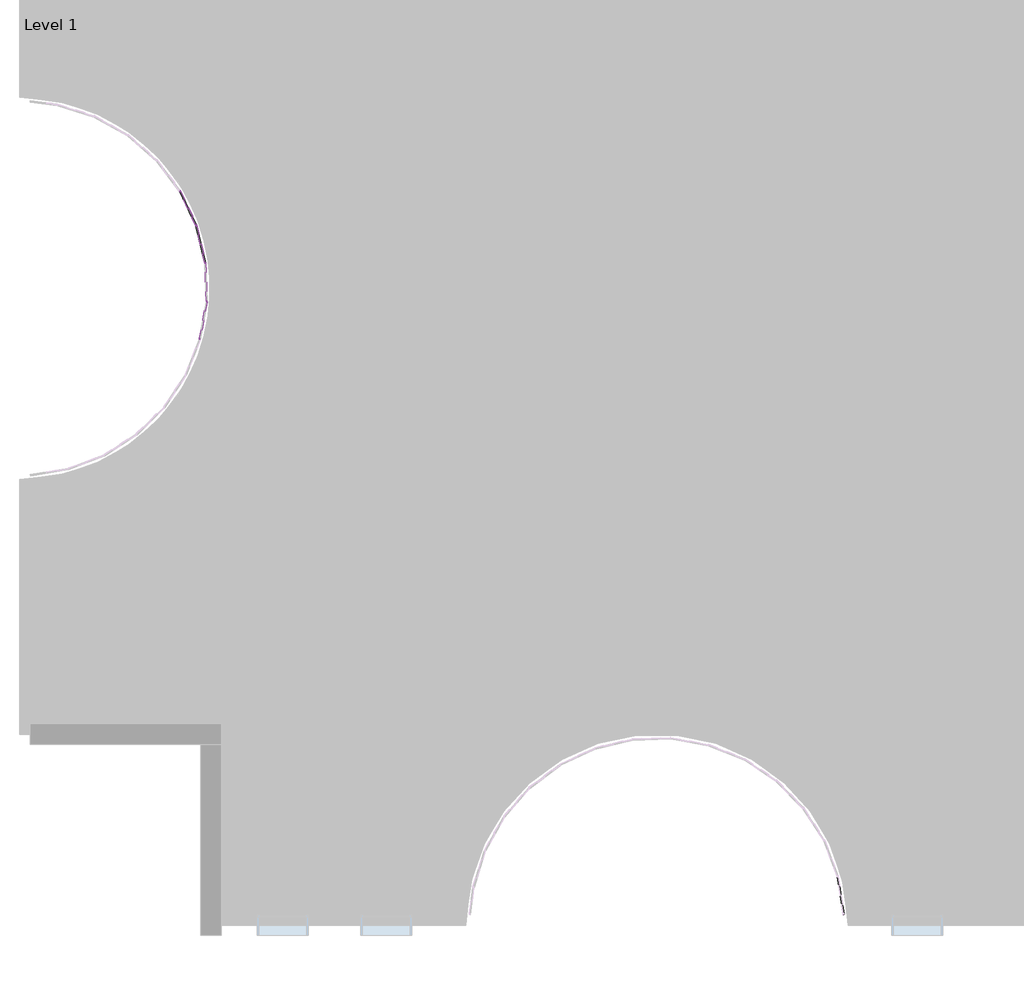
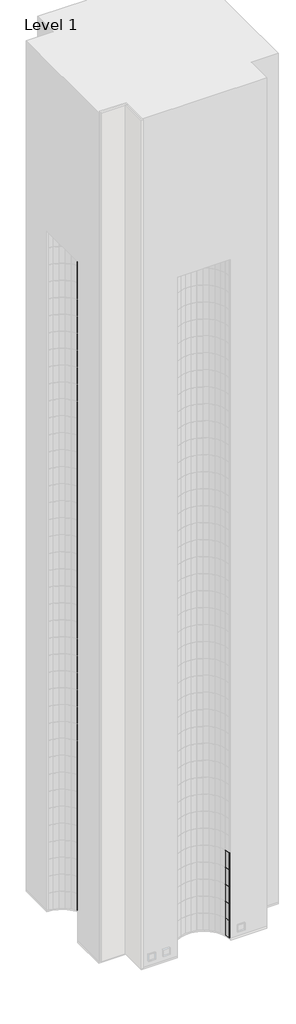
# One storey, part 6 of 20: 122 plates.
"""IFC4 building model written with IfcOpenShell, lengths in millimetres."""

from ifc_helpers import new_model, si_unit, origin, place, context, project, spatial, transform, mapped, element, save
from components import system_panel_glazed_d77d1ebf

model = new_model("IFC4")

# Units and contexts
model_context = context("Model", 3, world=origin())
ifc_project = project(units=[si_unit("LENGTHUNIT", "METRE", prefix="MILLI")], contexts=[model_context])

# Site, building, storey
site = spatial("IfcSite", under=ifc_project)
building = spatial("IfcBuilding", under=site)
storey = spatial("IfcBuildingStorey", under=building, Name="Level 1", Elevation=0.0)

# Plates
placement = place(None, origin())
system_panel_glazed_shape = system_panel_glazed_d77d1ebf(model_context)
element("IfcPlate", 1, ObjectType="System Panel : Glazed", at=placement, inside=storey, context=model_context, shape_type="MappedRepresentation", body=[
    mapped(system_panel_glazed_shape, transform((7886.1724907, -20726.1064319, 0.0), x_axis=(-0.1587098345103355, 0.9873252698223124, 0.0), y_axis=(-0.9873252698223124, -0.1587098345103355, 0.0), z_axis=(0.0, 0.0, 1.0))),
])
element("IfcPlate", 2, ObjectType="System Panel : Glazed", at=placement, inside=storey, context=model_context, shape_type="MappedRepresentation", body=[
    mapped(system_panel_glazed_shape, transform((7886.1724907, -20726.1064319, 3048.0), x_axis=(-0.1587098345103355, 0.9873252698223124, 0.0), y_axis=(-0.9873252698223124, -0.1587098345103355, 0.0), z_axis=(0.0, 0.0, 1.0))),
])
element("IfcPlate", 3, ObjectType="System Panel : Glazed", at=placement, inside=storey, context=model_context, shape_type="MappedRepresentation", body=[
    mapped(system_panel_glazed_shape, transform((7886.1724907, -20726.1064319, 6096.0), x_axis=(-0.1587098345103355, 0.9873252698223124, 0.0), y_axis=(-0.9873252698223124, -0.1587098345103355, 0.0), z_axis=(0.0, 0.0, 1.0))),
])
element("IfcPlate", 4, ObjectType="System Panel : Glazed", at=placement, inside=storey, context=model_context, shape_type="MappedRepresentation", body=[
    mapped(system_panel_glazed_shape, transform((7886.1724907, -20726.1064319, 9144.0), x_axis=(-0.1587098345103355, 0.9873252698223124, 0.0), y_axis=(-0.9873252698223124, -0.1587098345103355, 0.0), z_axis=(0.0, 0.0, 1.0))),
])
element("IfcPlate", 5, ObjectType="System Panel : Glazed", at=placement, inside=storey, context=model_context, shape_type="MappedRepresentation", body=[
    mapped(system_panel_glazed_shape, transform((7886.1724907, -20726.1064319, 12192.0), x_axis=(-0.1587098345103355, 0.9873252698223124, 0.0), y_axis=(-0.9873252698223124, -0.1587098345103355, 0.0), z_axis=(0.0, 0.0, 1.0))),
])
element("IfcPlate", 6, ObjectType="System Panel : Glazed", at=placement, inside=storey, context=model_context, shape_type="MappedRepresentation", body=[
    mapped(system_panel_glazed_shape, transform((-7420.4303916, -5153.6359648, 0.0), x_axis=(-0.23385091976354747, 0.9722724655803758, 0.0), y_axis=(-0.9722724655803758, -0.23385091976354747, 0.0), z_axis=(0.0, 0.0, 1.0))),
])
element("IfcPlate", 7, ObjectType="System Panel : Glazed", at=placement, inside=storey, context=model_context, shape_type="MappedRepresentation", body=[
    mapped(system_panel_glazed_shape, transform((-7722.9001162, -4295.8445199, 0.0), x_axis=(-0.42771890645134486, 0.9039117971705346, 0.0), y_axis=(-0.9039117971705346, -0.42771890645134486, 0.0), z_axis=(0.0, 0.0, 1.0))),
])
element("IfcPlate", 8, ObjectType="System Panel : Glazed", at=placement, inside=storey, context=model_context, shape_type="MappedRepresentation", body=[
    mapped(system_panel_glazed_shape, transform((-7420.4303916, -5153.6359648, 3048.0), x_axis=(-0.23385091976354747, 0.9722724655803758, 0.0), y_axis=(-0.9722724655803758, -0.23385091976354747, 0.0), z_axis=(0.0, 0.0, 1.0))),
])
element("IfcPlate", 9, ObjectType="System Panel : Glazed", at=placement, inside=storey, context=model_context, shape_type="MappedRepresentation", body=[
    mapped(system_panel_glazed_shape, transform((-7722.9001162, -4295.8445199, 3048.0), x_axis=(-0.42771890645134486, 0.9039117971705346, 0.0), y_axis=(-0.9039117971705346, -0.42771890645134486, 0.0), z_axis=(0.0, 0.0, 1.0))),
])
element("IfcPlate", 10, ObjectType="System Panel : Glazed", at=placement, inside=storey, context=model_context, shape_type="MappedRepresentation", body=[
    mapped(system_panel_glazed_shape, transform((-7420.4303916, -5153.6359648, 6096.0), x_axis=(-0.23385091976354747, 0.9722724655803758, 0.0), y_axis=(-0.9722724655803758, -0.23385091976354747, 0.0), z_axis=(0.0, 0.0, 1.0))),
])
element("IfcPlate", 11, ObjectType="System Panel : Glazed", at=placement, inside=storey, context=model_context, shape_type="MappedRepresentation", body=[
    mapped(system_panel_glazed_shape, transform((-7722.9001162, -4295.8445199, 6096.0), x_axis=(-0.42771890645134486, 0.9039117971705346, 0.0), y_axis=(-0.9039117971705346, -0.42771890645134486, 0.0), z_axis=(0.0, 0.0, 1.0))),
])
element("IfcPlate", 12, ObjectType="System Panel : Glazed", at=placement, inside=storey, context=model_context, shape_type="MappedRepresentation", body=[
    mapped(system_panel_glazed_shape, transform((-7420.4303916, -5153.6359648, 9144.0), x_axis=(-0.23385091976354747, 0.9722724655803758, 0.0), y_axis=(-0.9722724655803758, -0.23385091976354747, 0.0), z_axis=(0.0, 0.0, 1.0))),
])
element("IfcPlate", 13, ObjectType="System Panel : Glazed", at=placement, inside=storey, context=model_context, shape_type="MappedRepresentation", body=[
    mapped(system_panel_glazed_shape, transform((-7722.9001162, -4295.8445199, 9144.0), x_axis=(-0.42771890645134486, 0.9039117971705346, 0.0), y_axis=(-0.9039117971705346, -0.42771890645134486, 0.0), z_axis=(0.0, 0.0, 1.0))),
])
element("IfcPlate", 14, ObjectType="System Panel : Glazed", at=placement, inside=storey, context=model_context, shape_type="MappedRepresentation", body=[
    mapped(system_panel_glazed_shape, transform((-7420.4303916, -5153.6359648, 12192.0), x_axis=(-0.23385091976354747, 0.9722724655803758, 0.0), y_axis=(-0.9722724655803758, -0.23385091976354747, 0.0), z_axis=(0.0, 0.0, 1.0))),
])
element("IfcPlate", 15, ObjectType="System Panel : Glazed", at=placement, inside=storey, context=model_context, shape_type="MappedRepresentation", body=[
    mapped(system_panel_glazed_shape, transform((-7722.9001162, -4295.8445199, 12192.0), x_axis=(-0.42771890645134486, 0.9039117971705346, 0.0), y_axis=(-0.9039117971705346, -0.42771890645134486, 0.0), z_axis=(0.0, 0.0, 1.0))),
])
element("IfcPlate", 16, ObjectType="System Panel : Glazed", at=placement, inside=storey, context=model_context, shape_type="MappedRepresentation", body=[
    mapped(system_panel_glazed_shape, transform((-7420.4303916, -5153.6359648, 15240.0), x_axis=(-0.23385091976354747, 0.9722724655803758, 0.0), y_axis=(-0.9722724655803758, -0.23385091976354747, 0.0), z_axis=(0.0, 0.0, 1.0))),
])
element("IfcPlate", 17, ObjectType="System Panel : Glazed", at=placement, inside=storey, context=model_context, shape_type="MappedRepresentation", body=[
    mapped(system_panel_glazed_shape, transform((-7722.9001162, -4295.8445199, 15240.0), x_axis=(-0.42771890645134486, 0.9039117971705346, 0.0), y_axis=(-0.9039117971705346, -0.42771890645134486, 0.0), z_axis=(0.0, 0.0, 1.0))),
])
element("IfcPlate", 18, ObjectType="System Panel : Glazed", at=placement, inside=storey, context=model_context, shape_type="MappedRepresentation", body=[
    mapped(system_panel_glazed_shape, transform((-7420.4303916, -5153.6359648, 18288.0), x_axis=(-0.23385091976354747, 0.9722724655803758, 0.0), y_axis=(-0.9722724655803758, -0.23385091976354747, 0.0), z_axis=(0.0, 0.0, 1.0))),
])
element("IfcPlate", 19, ObjectType="System Panel : Glazed", at=placement, inside=storey, context=model_context, shape_type="MappedRepresentation", body=[
    mapped(system_panel_glazed_shape, transform((-7722.9001162, -4295.8445199, 18288.0), x_axis=(-0.42771890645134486, 0.9039117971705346, 0.0), y_axis=(-0.9039117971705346, -0.42771890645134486, 0.0), z_axis=(0.0, 0.0, 1.0))),
])
element("IfcPlate", 20, ObjectType="System Panel : Glazed", at=placement, inside=storey, context=model_context, shape_type="MappedRepresentation", body=[
    mapped(system_panel_glazed_shape, transform((-7420.4303916, -5153.6359648, 21336.0), x_axis=(-0.23385091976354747, 0.9722724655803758, 0.0), y_axis=(-0.9722724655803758, -0.23385091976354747, 0.0), z_axis=(0.0, 0.0, 1.0))),
])
element("IfcPlate", 21, ObjectType="System Panel : Glazed", at=placement, inside=storey, context=model_context, shape_type="MappedRepresentation", body=[
    mapped(system_panel_glazed_shape, transform((-7722.9001162, -4295.8445199, 21336.0), x_axis=(-0.42771890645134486, 0.9039117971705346, 0.0), y_axis=(-0.9039117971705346, -0.42771890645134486, 0.0), z_axis=(0.0, 0.0, 1.0))),
])
element("IfcPlate", 22, ObjectType="System Panel : Glazed", at=placement, inside=storey, context=model_context, shape_type="MappedRepresentation", body=[
    mapped(system_panel_glazed_shape, transform((-7420.4303916, -5153.6359648, 24384.0), x_axis=(-0.23385091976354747, 0.9722724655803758, 0.0), y_axis=(-0.9722724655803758, -0.23385091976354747, 0.0), z_axis=(0.0, 0.0, 1.0))),
])
element("IfcPlate", 23, ObjectType="System Panel : Glazed", at=placement, inside=storey, context=model_context, shape_type="MappedRepresentation", body=[
    mapped(system_panel_glazed_shape, transform((-7722.9001162, -4295.8445199, 24384.0), x_axis=(-0.42771890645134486, 0.9039117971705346, 0.0), y_axis=(-0.9039117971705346, -0.42771890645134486, 0.0), z_axis=(0.0, 0.0, 1.0))),
])
element("IfcPlate", 24, ObjectType="System Panel : Glazed", at=placement, inside=storey, context=model_context, shape_type="MappedRepresentation", body=[
    mapped(system_panel_glazed_shape, transform((-7420.4303916, -5153.6359648, 27432.0), x_axis=(-0.23385091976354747, 0.9722724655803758, 0.0), y_axis=(-0.9722724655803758, -0.23385091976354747, 0.0), z_axis=(0.0, 0.0, 1.0))),
])
element("IfcPlate", 25, ObjectType="System Panel : Glazed", at=placement, inside=storey, context=model_context, shape_type="MappedRepresentation", body=[
    mapped(system_panel_glazed_shape, transform((-7722.9001162, -4295.8445199, 27432.0), x_axis=(-0.42771890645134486, 0.9039117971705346, 0.0), y_axis=(-0.9039117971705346, -0.42771890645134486, 0.0), z_axis=(0.0, 0.0, 1.0))),
])
element("IfcPlate", 26, ObjectType="System Panel : Glazed", at=placement, inside=storey, context=model_context, shape_type="MappedRepresentation", body=[
    mapped(system_panel_glazed_shape, transform((-7420.4303916, -5153.6359648, 30480.0), x_axis=(-0.23385091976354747, 0.9722724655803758, 0.0), y_axis=(-0.9722724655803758, -0.23385091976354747, 0.0), z_axis=(0.0, 0.0, 1.0))),
])
element("IfcPlate", 27, ObjectType="System Panel : Glazed", at=placement, inside=storey, context=model_context, shape_type="MappedRepresentation", body=[
    mapped(system_panel_glazed_shape, transform((-7722.9001162, -4295.8445199, 30480.0), x_axis=(-0.42771890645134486, 0.9039117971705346, 0.0), y_axis=(-0.9039117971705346, -0.42771890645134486, 0.0), z_axis=(0.0, 0.0, 1.0))),
])
element("IfcPlate", 28, ObjectType="System Panel : Glazed", at=placement, inside=storey, context=model_context, shape_type="MappedRepresentation", body=[
    mapped(system_panel_glazed_shape, transform((-7420.4303916, -5153.6359648, 33528.0), x_axis=(-0.23385091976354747, 0.9722724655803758, 0.0), y_axis=(-0.9722724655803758, -0.23385091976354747, 0.0), z_axis=(0.0, 0.0, 1.0))),
])
element("IfcPlate", 29, ObjectType="System Panel : Glazed", at=placement, inside=storey, context=model_context, shape_type="MappedRepresentation", body=[
    mapped(system_panel_glazed_shape, transform((-7722.9001162, -4295.8445199, 33528.0), x_axis=(-0.42771890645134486, 0.9039117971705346, 0.0), y_axis=(-0.9039117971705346, -0.42771890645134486, 0.0), z_axis=(0.0, 0.0, 1.0))),
])
element("IfcPlate", 30, ObjectType="System Panel : Glazed", at=placement, inside=storey, context=model_context, shape_type="MappedRepresentation", body=[
    mapped(system_panel_glazed_shape, transform((-7420.4303916, -5153.6359648, 36576.0), x_axis=(-0.23385091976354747, 0.9722724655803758, 0.0), y_axis=(-0.9722724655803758, -0.23385091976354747, 0.0), z_axis=(0.0, 0.0, 1.0))),
])
element("IfcPlate", 31, ObjectType="System Panel : Glazed", at=placement, inside=storey, context=model_context, shape_type="MappedRepresentation", body=[
    mapped(system_panel_glazed_shape, transform((-7722.9001162, -4295.8445199, 36576.0), x_axis=(-0.42771890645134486, 0.9039117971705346, 0.0), y_axis=(-0.9039117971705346, -0.42771890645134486, 0.0), z_axis=(0.0, 0.0, 1.0))),
])
element("IfcPlate", 32, ObjectType="System Panel : Glazed", at=placement, inside=storey, context=model_context, shape_type="MappedRepresentation", body=[
    mapped(system_panel_glazed_shape, transform((-7420.4303916, -5153.6359648, 39624.0), x_axis=(-0.23385091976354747, 0.9722724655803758, 0.0), y_axis=(-0.9722724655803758, -0.23385091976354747, 0.0), z_axis=(0.0, 0.0, 1.0))),
])
element("IfcPlate", 33, ObjectType="System Panel : Glazed", at=placement, inside=storey, context=model_context, shape_type="MappedRepresentation", body=[
    mapped(system_panel_glazed_shape, transform((-7722.9001162, -4295.8445199, 39624.0), x_axis=(-0.42771890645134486, 0.9039117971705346, 0.0), y_axis=(-0.9039117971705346, -0.42771890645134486, 0.0), z_axis=(0.0, 0.0, 1.0))),
])
element("IfcPlate", 34, ObjectType="System Panel : Glazed", at=placement, inside=storey, context=model_context, shape_type="MappedRepresentation", body=[
    mapped(system_panel_glazed_shape, transform((-7420.4303916, -5153.6359648, 42672.0), x_axis=(-0.23385091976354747, 0.9722724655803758, 0.0), y_axis=(-0.9722724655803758, -0.23385091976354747, 0.0), z_axis=(0.0, 0.0, 1.0))),
])
element("IfcPlate", 35, ObjectType="System Panel : Glazed", at=placement, inside=storey, context=model_context, shape_type="MappedRepresentation", body=[
    mapped(system_panel_glazed_shape, transform((-7722.9001162, -4295.8445199, 42672.0), x_axis=(-0.42771890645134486, 0.9039117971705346, 0.0), y_axis=(-0.9039117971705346, -0.42771890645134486, 0.0), z_axis=(0.0, 0.0, 1.0))),
])
element("IfcPlate", 36, ObjectType="System Panel : Glazed", at=placement, inside=storey, context=model_context, shape_type="MappedRepresentation", body=[
    mapped(system_panel_glazed_shape, transform((-7420.4303916, -5153.6359648, 45720.0), x_axis=(-0.23385091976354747, 0.9722724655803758, 0.0), y_axis=(-0.9722724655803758, -0.23385091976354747, 0.0), z_axis=(0.0, 0.0, 1.0))),
])
element("IfcPlate", 37, ObjectType="System Panel : Glazed", at=placement, inside=storey, context=model_context, shape_type="MappedRepresentation", body=[
    mapped(system_panel_glazed_shape, transform((-7722.9001162, -4295.8445199, 45720.0), x_axis=(-0.42771890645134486, 0.9039117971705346, 0.0), y_axis=(-0.9039117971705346, -0.42771890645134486, 0.0), z_axis=(0.0, 0.0, 1.0))),
])
element("IfcPlate", 38, ObjectType="System Panel : Glazed", at=placement, inside=storey, context=model_context, shape_type="MappedRepresentation", body=[
    mapped(system_panel_glazed_shape, transform((-7420.4303916, -5153.6359648, 48768.0), x_axis=(-0.23385091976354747, 0.9722724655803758, 0.0), y_axis=(-0.9722724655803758, -0.23385091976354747, 0.0), z_axis=(0.0, 0.0, 1.0))),
])
element("IfcPlate", 39, ObjectType="System Panel : Glazed", at=placement, inside=storey, context=model_context, shape_type="MappedRepresentation", body=[
    mapped(system_panel_glazed_shape, transform((-7722.9001162, -4295.8445199, 48768.0), x_axis=(-0.42771890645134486, 0.9039117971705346, 0.0), y_axis=(-0.9039117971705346, -0.42771890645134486, 0.0), z_axis=(0.0, 0.0, 1.0))),
])
element("IfcPlate", 40, ObjectType="System Panel : Glazed", at=placement, inside=storey, context=model_context, shape_type="MappedRepresentation", body=[
    mapped(system_panel_glazed_shape, transform((-7420.4303916, -5153.6359648, 51816.0), x_axis=(-0.23385091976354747, 0.9722724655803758, 0.0), y_axis=(-0.9722724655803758, -0.23385091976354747, 0.0), z_axis=(0.0, 0.0, 1.0))),
])
element("IfcPlate", 41, ObjectType="System Panel : Glazed", at=placement, inside=storey, context=model_context, shape_type="MappedRepresentation", body=[
    mapped(system_panel_glazed_shape, transform((-7722.9001162, -4295.8445199, 51816.0), x_axis=(-0.42771890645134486, 0.9039117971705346, 0.0), y_axis=(-0.9039117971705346, -0.42771890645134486, 0.0), z_axis=(0.0, 0.0, 1.0))),
])
element("IfcPlate", 42, ObjectType="System Panel : Glazed", at=placement, inside=storey, context=model_context, shape_type="MappedRepresentation", body=[
    mapped(system_panel_glazed_shape, transform((-7420.4303916, -5153.6359648, 54864.0), x_axis=(-0.23385091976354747, 0.9722724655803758, 0.0), y_axis=(-0.9722724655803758, -0.23385091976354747, 0.0), z_axis=(0.0, 0.0, 1.0))),
])
element("IfcPlate", 43, ObjectType="System Panel : Glazed", at=placement, inside=storey, context=model_context, shape_type="MappedRepresentation", body=[
    mapped(system_panel_glazed_shape, transform((-7722.9001162, -4295.8445199, 54864.0), x_axis=(-0.42771890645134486, 0.9039117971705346, 0.0), y_axis=(-0.9039117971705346, -0.42771890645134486, 0.0), z_axis=(0.0, 0.0, 1.0))),
])
element("IfcPlate", 44, ObjectType="System Panel : Glazed", at=placement, inside=storey, context=model_context, shape_type="MappedRepresentation", body=[
    mapped(system_panel_glazed_shape, transform((-7420.4303916, -5153.6359648, 57912.0), x_axis=(-0.23385091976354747, 0.9722724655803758, 0.0), y_axis=(-0.9722724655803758, -0.23385091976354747, 0.0), z_axis=(0.0, 0.0, 1.0))),
])
element("IfcPlate", 45, ObjectType="System Panel : Glazed", at=placement, inside=storey, context=model_context, shape_type="MappedRepresentation", body=[
    mapped(system_panel_glazed_shape, transform((-7722.9001162, -4295.8445199, 57912.0), x_axis=(-0.42771890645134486, 0.9039117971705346, 0.0), y_axis=(-0.9039117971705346, -0.42771890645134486, 0.0), z_axis=(0.0, 0.0, 1.0))),
])
element("IfcPlate", 46, ObjectType="System Panel : Glazed", at=placement, inside=storey, context=model_context, shape_type="MappedRepresentation", body=[
    mapped(system_panel_glazed_shape, transform((-7420.4303916, -5153.6359648, 60960.0), x_axis=(-0.23385091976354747, 0.9722724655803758, 0.0), y_axis=(-0.9722724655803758, -0.23385091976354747, 0.0), z_axis=(0.0, 0.0, 1.0))),
])
element("IfcPlate", 47, ObjectType="System Panel : Glazed", at=placement, inside=storey, context=model_context, shape_type="MappedRepresentation", body=[
    mapped(system_panel_glazed_shape, transform((-7722.9001162, -4295.8445199, 60960.0), x_axis=(-0.42771890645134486, 0.9039117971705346, 0.0), y_axis=(-0.9039117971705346, -0.42771890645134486, 0.0), z_axis=(0.0, 0.0, 1.0))),
])
element("IfcPlate", 48, ObjectType="System Panel : Glazed", at=placement, inside=storey, context=model_context, shape_type="MappedRepresentation", body=[
    mapped(system_panel_glazed_shape, transform((-7420.4303916, -5153.6359648, 64008.0), x_axis=(-0.23385091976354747, 0.9722724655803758, 0.0), y_axis=(-0.9722724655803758, -0.23385091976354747, 0.0), z_axis=(0.0, 0.0, 1.0))),
])
element("IfcPlate", 49, ObjectType="System Panel : Glazed", at=placement, inside=storey, context=model_context, shape_type="MappedRepresentation", body=[
    mapped(system_panel_glazed_shape, transform((-7722.9001162, -4295.8445199, 64008.0), x_axis=(-0.42771890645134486, 0.9039117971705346, 0.0), y_axis=(-0.9039117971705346, -0.42771890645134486, 0.0), z_axis=(0.0, 0.0, 1.0))),
])
element("IfcPlate", 50, ObjectType="System Panel : Glazed", at=placement, inside=storey, context=model_context, shape_type="MappedRepresentation", body=[
    mapped(system_panel_glazed_shape, transform((-7420.4303916, -5153.6359648, 67056.0), x_axis=(-0.23385091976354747, 0.9722724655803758, 0.0), y_axis=(-0.9722724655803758, -0.23385091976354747, 0.0), z_axis=(0.0, 0.0, 1.0))),
])
element("IfcPlate", 51, ObjectType="System Panel : Glazed", at=placement, inside=storey, context=model_context, shape_type="MappedRepresentation", body=[
    mapped(system_panel_glazed_shape, transform((-7722.9001162, -4295.8445199, 67056.0), x_axis=(-0.42771890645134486, 0.9039117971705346, 0.0), y_axis=(-0.9039117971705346, -0.42771890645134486, 0.0), z_axis=(0.0, 0.0, 1.0))),
])
element("IfcPlate", 52, ObjectType="System Panel : Glazed", at=placement, inside=storey, context=model_context, shape_type="MappedRepresentation", body=[
    mapped(system_panel_glazed_shape, transform((-7420.4303916, -5153.6359648, 70104.0), x_axis=(-0.23385091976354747, 0.9722724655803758, 0.0), y_axis=(-0.9722724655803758, -0.23385091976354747, 0.0), z_axis=(0.0, 0.0, 1.0))),
])
element("IfcPlate", 53, ObjectType="System Panel : Glazed", at=placement, inside=storey, context=model_context, shape_type="MappedRepresentation", body=[
    mapped(system_panel_glazed_shape, transform((-7722.9001162, -4295.8445199, 70104.0), x_axis=(-0.42771890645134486, 0.9039117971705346, 0.0), y_axis=(-0.9039117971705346, -0.42771890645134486, 0.0), z_axis=(0.0, 0.0, 1.0))),
])
element("IfcPlate", 54, ObjectType="System Panel : Glazed", at=placement, inside=storey, context=model_context, shape_type="MappedRepresentation", body=[
    mapped(system_panel_glazed_shape, transform((-7420.4303916, -5153.6359648, 73152.0), x_axis=(-0.23385091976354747, 0.9722724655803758, 0.0), y_axis=(-0.9722724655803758, -0.23385091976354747, 0.0), z_axis=(0.0, 0.0, 1.0))),
])
element("IfcPlate", 55, ObjectType="System Panel : Glazed", at=placement, inside=storey, context=model_context, shape_type="MappedRepresentation", body=[
    mapped(system_panel_glazed_shape, transform((-7722.9001162, -4295.8445199, 73152.0), x_axis=(-0.42771890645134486, 0.9039117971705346, 0.0), y_axis=(-0.9039117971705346, -0.42771890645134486, 0.0), z_axis=(0.0, 0.0, 1.0))),
])
element("IfcPlate", 56, ObjectType="System Panel : Glazed", at=placement, inside=storey, context=model_context, shape_type="MappedRepresentation", body=[
    mapped(system_panel_glazed_shape, transform((-7420.4303916, -5153.6359648, 76200.0), x_axis=(-0.23385091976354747, 0.9722724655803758, 0.0), y_axis=(-0.9722724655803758, -0.23385091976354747, 0.0), z_axis=(0.0, 0.0, 1.0))),
])
element("IfcPlate", 57, ObjectType="System Panel : Glazed", at=placement, inside=storey, context=model_context, shape_type="MappedRepresentation", body=[
    mapped(system_panel_glazed_shape, transform((-7722.9001162, -4295.8445199, 76200.0), x_axis=(-0.42771890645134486, 0.9039117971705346, 0.0), y_axis=(-0.9039117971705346, -0.42771890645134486, 0.0), z_axis=(0.0, 0.0, 1.0))),
])
element("IfcPlate", 58, ObjectType="System Panel : Glazed", at=placement, inside=storey, context=model_context, shape_type="MappedRepresentation", body=[
    mapped(system_panel_glazed_shape, transform((-7420.4303916, -5153.6359648, 79248.0), x_axis=(-0.23385091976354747, 0.9722724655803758, 0.0), y_axis=(-0.9722724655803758, -0.23385091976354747, 0.0), z_axis=(0.0, 0.0, 1.0))),
])
element("IfcPlate", 59, ObjectType="System Panel : Glazed", at=placement, inside=storey, context=model_context, shape_type="MappedRepresentation", body=[
    mapped(system_panel_glazed_shape, transform((-7722.9001162, -4295.8445199, 79248.0), x_axis=(-0.42771890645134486, 0.9039117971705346, 0.0), y_axis=(-0.9039117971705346, -0.42771890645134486, 0.0), z_axis=(0.0, 0.0, 1.0))),
])
element("IfcPlate", 60, ObjectType="System Panel : Glazed", at=placement, inside=storey, context=model_context, shape_type="MappedRepresentation", body=[
    mapped(system_panel_glazed_shape, transform((-7420.4303916, -5153.6359648, 82296.0), x_axis=(-0.23385091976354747, 0.9722724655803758, 0.0), y_axis=(-0.9722724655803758, -0.23385091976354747, 0.0), z_axis=(0.0, 0.0, 1.0))),
])
element("IfcPlate", 61, ObjectType="System Panel : Glazed", at=placement, inside=storey, context=model_context, shape_type="MappedRepresentation", body=[
    mapped(system_panel_glazed_shape, transform((-7722.9001162, -4295.8445199, 82296.0), x_axis=(-0.42771890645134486, 0.9039117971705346, 0.0), y_axis=(-0.9039117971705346, -0.42771890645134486, 0.0), z_axis=(0.0, 0.0, 1.0))),
])
element("IfcPlate", 62, ObjectType="System Panel : Glazed", at=placement, inside=storey, context=model_context, shape_type="MappedRepresentation", body=[
    mapped(system_panel_glazed_shape, transform((-7420.4303916, -5153.6359648, 85344.0), x_axis=(-0.23385091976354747, 0.9722724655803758, 0.0), y_axis=(-0.9722724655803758, -0.23385091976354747, 0.0), z_axis=(0.0, 0.0, 1.0))),
])
element("IfcPlate", 63, ObjectType="System Panel : Glazed", at=placement, inside=storey, context=model_context, shape_type="MappedRepresentation", body=[
    mapped(system_panel_glazed_shape, transform((-7722.9001162, -4295.8445199, 85344.0), x_axis=(-0.42771890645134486, 0.9039117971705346, 0.0), y_axis=(-0.9039117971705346, -0.42771890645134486, 0.0), z_axis=(0.0, 0.0, 1.0))),
])
element("IfcPlate", 64, ObjectType="System Panel : Glazed", at=placement, inside=storey, context=model_context, shape_type="MappedRepresentation", body=[
    mapped(system_panel_glazed_shape, transform((-7420.4303916, -5153.6359648, 88392.0), x_axis=(-0.23385091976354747, 0.9722724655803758, 0.0), y_axis=(-0.9722724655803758, -0.23385091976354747, 0.0), z_axis=(0.0, 0.0, 1.0))),
])
element("IfcPlate", 65, ObjectType="System Panel : Glazed", at=placement, inside=storey, context=model_context, shape_type="MappedRepresentation", body=[
    mapped(system_panel_glazed_shape, transform((-7722.9001162, -4295.8445199, 88392.0), x_axis=(-0.42771890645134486, 0.9039117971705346, 0.0), y_axis=(-0.9039117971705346, -0.42771890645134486, 0.0), z_axis=(0.0, 0.0, 1.0))),
])
element("IfcPlate", 66, ObjectType="System Panel : Glazed", at=placement, inside=storey, context=model_context, shape_type="MappedRepresentation", body=[
    mapped(system_panel_glazed_shape, transform((-7420.4303916, -5153.6359648, 91440.0), x_axis=(-0.23385091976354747, 0.9722724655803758, 0.0), y_axis=(-0.9722724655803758, -0.23385091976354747, 0.0), z_axis=(0.0, 0.0, 1.0))),
])
element("IfcPlate", 67, ObjectType="System Panel : Glazed", at=placement, inside=storey, context=model_context, shape_type="MappedRepresentation", body=[
    mapped(system_panel_glazed_shape, transform((-7722.9001162, -4295.8445199, 91440.0), x_axis=(-0.42771890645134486, 0.9039117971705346, 0.0), y_axis=(-0.9039117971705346, -0.42771890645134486, 0.0), z_axis=(0.0, 0.0, 1.0))),
])
element("IfcPlate", 68, ObjectType="System Panel : Glazed", at=placement, inside=storey, context=model_context, shape_type="MappedRepresentation", body=[
    mapped(system_panel_glazed_shape, transform((-7420.4303916, -5153.6359648, 94488.0), x_axis=(-0.23385091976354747, 0.9722724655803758, 0.0), y_axis=(-0.9722724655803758, -0.23385091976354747, 0.0), z_axis=(0.0, 0.0, 1.0))),
])
element("IfcPlate", 69, ObjectType="System Panel : Glazed", at=placement, inside=storey, context=model_context, shape_type="MappedRepresentation", body=[
    mapped(system_panel_glazed_shape, transform((-7722.9001162, -4295.8445199, 94488.0), x_axis=(-0.42771890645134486, 0.9039117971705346, 0.0), y_axis=(-0.9039117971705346, -0.42771890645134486, 0.0), z_axis=(0.0, 0.0, 1.0))),
])
element("IfcPlate", 70, ObjectType="System Panel : Glazed", at=placement, inside=storey, context=model_context, shape_type="MappedRepresentation", body=[
    mapped(system_panel_glazed_shape, transform((-7420.4303916, -5153.6359648, 97536.0), x_axis=(-0.23385091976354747, 0.9722724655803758, 0.0), y_axis=(-0.9722724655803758, -0.23385091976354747, 0.0), z_axis=(0.0, 0.0, 1.0))),
])
element("IfcPlate", 71, ObjectType="System Panel : Glazed", at=placement, inside=storey, context=model_context, shape_type="MappedRepresentation", body=[
    mapped(system_panel_glazed_shape, transform((-7722.9001162, -4295.8445199, 97536.0), x_axis=(-0.42771890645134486, 0.9039117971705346, 0.0), y_axis=(-0.9039117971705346, -0.42771890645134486, 0.0), z_axis=(0.0, 0.0, 1.0))),
])
element("IfcPlate", 72, ObjectType="System Panel : Glazed", at=placement, inside=storey, context=model_context, shape_type="MappedRepresentation", body=[
    mapped(system_panel_glazed_shape, transform((-7420.4303916, -5153.6359648, 100584.0), x_axis=(-0.23385091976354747, 0.9722724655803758, 0.0), y_axis=(-0.9722724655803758, -0.23385091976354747, 0.0), z_axis=(0.0, 0.0, 1.0))),
])
element("IfcPlate", 73, ObjectType="System Panel : Glazed", at=placement, inside=storey, context=model_context, shape_type="MappedRepresentation", body=[
    mapped(system_panel_glazed_shape, transform((-7722.9001162, -4295.8445199, 100584.0), x_axis=(-0.42771890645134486, 0.9039117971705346, 0.0), y_axis=(-0.9039117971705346, -0.42771890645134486, 0.0), z_axis=(0.0, 0.0, 1.0))),
])
element("IfcPlate", 74, ObjectType="System Panel : Glazed", at=placement, inside=storey, context=model_context, shape_type="MappedRepresentation", body=[
    mapped(system_panel_glazed_shape, transform((-7365.9634866, -6962.2956813, 27432.0), x_axis=(0.1749211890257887, 0.9845824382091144, 0.0), y_axis=(-0.9845824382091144, 0.1749211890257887, 0.0), z_axis=(0.0, 0.0, 1.0))),
])
element("IfcPlate", 75, ObjectType="System Panel : Glazed", at=placement, inside=storey, context=model_context, shape_type="MappedRepresentation", body=[
    mapped(system_panel_glazed_shape, transform((-7365.9634866, -6962.2956813, 30480.0), x_axis=(0.1749211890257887, 0.9845824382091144, 0.0), y_axis=(-0.9845824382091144, 0.1749211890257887, 0.0), z_axis=(0.0, 0.0, 1.0))),
])
element("IfcPlate", 76, ObjectType="System Panel : Glazed", at=placement, inside=storey, context=model_context, shape_type="MappedRepresentation", body=[
    mapped(system_panel_glazed_shape, transform((-7365.9634866, -6962.2956813, 33528.0), x_axis=(0.1749211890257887, 0.9845824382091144, 0.0), y_axis=(-0.9845824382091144, 0.1749211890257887, 0.0), z_axis=(0.0, 0.0, 1.0))),
])
element("IfcPlate", 77, ObjectType="System Panel : Glazed", at=placement, inside=storey, context=model_context, shape_type="MappedRepresentation", body=[
    mapped(system_panel_glazed_shape, transform((-7365.9634866, -6962.2956813, 36576.0), x_axis=(0.1749211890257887, 0.9845824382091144, 0.0), y_axis=(-0.9845824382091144, 0.1749211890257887, 0.0), z_axis=(0.0, 0.0, 1.0))),
])
element("IfcPlate", 78, ObjectType="System Panel : Glazed", at=placement, inside=storey, context=model_context, shape_type="MappedRepresentation", body=[
    mapped(system_panel_glazed_shape, transform((-7365.9634866, -6962.2956813, 39624.0), x_axis=(0.1749211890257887, 0.9845824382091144, 0.0), y_axis=(-0.9845824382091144, 0.1749211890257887, 0.0), z_axis=(0.0, 0.0, 1.0))),
])
element("IfcPlate", 79, ObjectType="System Panel : Glazed", at=placement, inside=storey, context=model_context, shape_type="MappedRepresentation", body=[
    mapped(system_panel_glazed_shape, transform((-7365.9634866, -6962.2956813, 42672.0), x_axis=(0.1749211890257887, 0.9845824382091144, 0.0), y_axis=(-0.9845824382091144, 0.1749211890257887, 0.0), z_axis=(0.0, 0.0, 1.0))),
])
element("IfcPlate", 80, ObjectType="System Panel : Glazed", at=placement, inside=storey, context=model_context, shape_type="MappedRepresentation", body=[
    mapped(system_panel_glazed_shape, transform((-7365.9634866, -6962.2956813, 45720.0), x_axis=(0.1749211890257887, 0.9845824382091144, 0.0), y_axis=(-0.9845824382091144, 0.1749211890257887, 0.0), z_axis=(0.0, 0.0, 1.0))),
])
element("IfcPlate", 81, ObjectType="System Panel : Glazed", at=placement, inside=storey, context=model_context, shape_type="MappedRepresentation", body=[
    mapped(system_panel_glazed_shape, transform((-7365.9634866, -6962.2956813, 48768.0), x_axis=(0.1749211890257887, 0.9845824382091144, 0.0), y_axis=(-0.9845824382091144, 0.1749211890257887, 0.0), z_axis=(0.0, 0.0, 1.0))),
])
element("IfcPlate", 82, ObjectType="System Panel : Glazed", at=placement, inside=storey, context=model_context, shape_type="MappedRepresentation", body=[
    mapped(system_panel_glazed_shape, transform((-7365.9634866, -6962.2956813, 51816.0), x_axis=(0.1749211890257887, 0.9845824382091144, 0.0), y_axis=(-0.9845824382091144, 0.1749211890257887, 0.0), z_axis=(0.0, 0.0, 1.0))),
])
element("IfcPlate", 83, ObjectType="System Panel : Glazed", at=placement, inside=storey, context=model_context, shape_type="MappedRepresentation", body=[
    mapped(system_panel_glazed_shape, transform((-7365.9634866, -6962.2956813, 54864.0), x_axis=(0.1749211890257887, 0.9845824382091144, 0.0), y_axis=(-0.9845824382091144, 0.1749211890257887, 0.0), z_axis=(0.0, 0.0, 1.0))),
])
element("IfcPlate", 84, ObjectType="System Panel : Glazed", at=placement, inside=storey, context=model_context, shape_type="MappedRepresentation", body=[
    mapped(system_panel_glazed_shape, transform((-7365.9634866, -6962.2956813, 57912.0), x_axis=(0.1749211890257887, 0.9845824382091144, 0.0), y_axis=(-0.9845824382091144, 0.1749211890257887, 0.0), z_axis=(0.0, 0.0, 1.0))),
])
element("IfcPlate", 85, ObjectType="System Panel : Glazed", at=placement, inside=storey, context=model_context, shape_type="MappedRepresentation", body=[
    mapped(system_panel_glazed_shape, transform((-7365.9634866, -6962.2956813, 60960.0), x_axis=(0.1749211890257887, 0.9845824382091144, 0.0), y_axis=(-0.9845824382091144, 0.1749211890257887, 0.0), z_axis=(0.0, 0.0, 1.0))),
])
element("IfcPlate", 86, ObjectType="System Panel : Glazed", at=placement, inside=storey, context=model_context, shape_type="MappedRepresentation", body=[
    mapped(system_panel_glazed_shape, transform((-7365.9634866, -6962.2956813, 64008.0), x_axis=(0.1749211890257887, 0.9845824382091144, 0.0), y_axis=(-0.9845824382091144, 0.1749211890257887, 0.0), z_axis=(0.0, 0.0, 1.0))),
])
element("IfcPlate", 87, ObjectType="System Panel : Glazed", at=placement, inside=storey, context=model_context, shape_type="MappedRepresentation", body=[
    mapped(system_panel_glazed_shape, transform((-7365.9634866, -6962.2956813, 67056.0), x_axis=(0.1749211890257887, 0.9845824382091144, 0.0), y_axis=(-0.9845824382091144, 0.1749211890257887, 0.0), z_axis=(0.0, 0.0, 1.0))),
])
element("IfcPlate", 88, ObjectType="System Panel : Glazed", at=placement, inside=storey, context=model_context, shape_type="MappedRepresentation", body=[
    mapped(system_panel_glazed_shape, transform((-7365.9634866, -6962.2956813, 70104.0), x_axis=(0.1749211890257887, 0.9845824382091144, 0.0), y_axis=(-0.9845824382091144, 0.1749211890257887, 0.0), z_axis=(0.0, 0.0, 1.0))),
])
element("IfcPlate", 89, ObjectType="System Panel : Glazed", at=placement, inside=storey, context=model_context, shape_type="MappedRepresentation", body=[
    mapped(system_panel_glazed_shape, transform((-7365.9634866, -6962.2956813, 73152.0), x_axis=(0.1749211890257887, 0.9845824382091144, 0.0), y_axis=(-0.9845824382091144, 0.1749211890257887, 0.0), z_axis=(0.0, 0.0, 1.0))),
])
element("IfcPlate", 90, ObjectType="System Panel : Glazed", at=placement, inside=storey, context=model_context, shape_type="MappedRepresentation", body=[
    mapped(system_panel_glazed_shape, transform((-7365.9634866, -6962.2956813, 76200.0), x_axis=(0.1749211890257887, 0.9845824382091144, 0.0), y_axis=(-0.9845824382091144, 0.1749211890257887, 0.0), z_axis=(0.0, 0.0, 1.0))),
])
element("IfcPlate", 91, ObjectType="System Panel : Glazed", at=placement, inside=storey, context=model_context, shape_type="MappedRepresentation", body=[
    mapped(system_panel_glazed_shape, transform((-7365.9634866, -6962.2956813, 79248.0), x_axis=(0.1749211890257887, 0.9845824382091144, 0.0), y_axis=(-0.9845824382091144, 0.1749211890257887, 0.0), z_axis=(0.0, 0.0, 1.0))),
])
element("IfcPlate", 92, ObjectType="System Panel : Glazed", at=placement, inside=storey, context=model_context, shape_type="MappedRepresentation", body=[
    mapped(system_panel_glazed_shape, transform((-7365.9634866, -6962.2956813, 82296.0), x_axis=(0.1749211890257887, 0.9845824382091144, 0.0), y_axis=(-0.9845824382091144, 0.1749211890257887, 0.0), z_axis=(0.0, 0.0, 1.0))),
])
element("IfcPlate", 93, ObjectType="System Panel : Glazed", at=placement, inside=storey, context=model_context, shape_type="MappedRepresentation", body=[
    mapped(system_panel_glazed_shape, transform((-7365.9634866, -6962.2956813, 85344.0), x_axis=(0.1749211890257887, 0.9845824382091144, 0.0), y_axis=(-0.9845824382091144, 0.1749211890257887, 0.0), z_axis=(0.0, 0.0, 1.0))),
])
element("IfcPlate", 94, ObjectType="System Panel : Glazed", at=placement, inside=storey, context=model_context, shape_type="MappedRepresentation", body=[
    mapped(system_panel_glazed_shape, transform((-7365.9634866, -6962.2956813, 88392.0), x_axis=(0.1749211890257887, 0.9845824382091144, 0.0), y_axis=(-0.9845824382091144, 0.1749211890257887, 0.0), z_axis=(0.0, 0.0, 1.0))),
])
element("IfcPlate", 95, ObjectType="System Panel : Glazed", at=placement, inside=storey, context=model_context, shape_type="MappedRepresentation", body=[
    mapped(system_panel_glazed_shape, transform((-7365.9634866, -6962.2956813, 91440.0), x_axis=(0.1749211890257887, 0.9845824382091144, 0.0), y_axis=(-0.9845824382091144, 0.1749211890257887, 0.0), z_axis=(0.0, 0.0, 1.0))),
])
element("IfcPlate", 96, ObjectType="System Panel : Glazed", at=placement, inside=storey, context=model_context, shape_type="MappedRepresentation", body=[
    mapped(system_panel_glazed_shape, transform((-7365.9634866, -6962.2956813, 94488.0), x_axis=(0.1749211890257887, 0.9845824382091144, 0.0), y_axis=(-0.9845824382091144, 0.1749211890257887, 0.0), z_axis=(0.0, 0.0, 1.0))),
])
element("IfcPlate", 97, ObjectType="System Panel : Glazed", at=placement, inside=storey, context=model_context, shape_type="MappedRepresentation", body=[
    mapped(system_panel_glazed_shape, transform((-7365.9634866, -6962.2956813, 97536.0), x_axis=(0.1749211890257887, 0.9845824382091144, 0.0), y_axis=(-0.9845824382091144, 0.1749211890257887, 0.0), z_axis=(0.0, 0.0, 1.0))),
])
element("IfcPlate", 98, ObjectType="System Panel : Glazed", at=placement, inside=storey, context=model_context, shape_type="MappedRepresentation", body=[
    mapped(system_panel_glazed_shape, transform((-7365.9634866, -6962.2956813, 100584.0), x_axis=(0.1749211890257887, 0.9845824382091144, 0.0), y_axis=(-0.9845824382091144, 0.1749211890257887, 0.0), z_axis=(0.0, 0.0, 1.0))),
])
element("IfcPlate", 99, ObjectType="System Panel : Glazed", at=placement, inside=storey, context=model_context, shape_type="MappedRepresentation", body=[
    mapped(system_panel_glazed_shape, transform((-7299.7516351, -6055.1517633, 103632.0), x_axis=(-0.03010086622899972, 0.9995468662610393, 0.0), y_axis=(-0.9995468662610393, -0.03010086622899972, 0.0), z_axis=(0.0, 0.0, 1.0))),
])
element("IfcPlate", 100, ObjectType="System Panel : Glazed", at=placement, inside=storey, context=model_context, shape_type="MappedRepresentation", body=[
    mapped(system_panel_glazed_shape, transform((-7365.9634866, -6962.2956813, 103632.0), x_axis=(0.1749211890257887, 0.9845824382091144, 0.0), y_axis=(-0.9845824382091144, 0.1749211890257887, 0.0), z_axis=(0.0, 0.0, 1.0))),
])
element("IfcPlate", 101, ObjectType="System Panel : Glazed", at=placement, inside=storey, context=model_context, shape_type="MappedRepresentation", body=[
    mapped(system_panel_glazed_shape, transform((-7420.4303916, -5153.6359648, 103632.0), x_axis=(-0.23385091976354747, 0.9722724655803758, 0.0), y_axis=(-0.9722724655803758, -0.23385091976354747, 0.0), z_axis=(0.0, 0.0, 1.0))),
])
element("IfcPlate", 102, ObjectType="System Panel : Glazed", at=placement, inside=storey, context=model_context, shape_type="MappedRepresentation", body=[
    mapped(system_panel_glazed_shape, transform((-7722.9001162, -4295.8445199, 103632.0), x_axis=(-0.42771890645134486, 0.9039117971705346, 0.0), y_axis=(-0.9039117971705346, -0.42771890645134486, 0.0), z_axis=(0.0, 0.0, 1.0))),
])
element("IfcPlate", 103, ObjectType="System Panel : Glazed", at=placement, inside=storey, context=model_context, shape_type="MappedRepresentation", body=[
    mapped(system_panel_glazed_shape, transform((-7299.7516351, -6055.1517633, 106680.0), x_axis=(-0.03010086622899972, 0.9995468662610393, 0.0), y_axis=(-0.9995468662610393, -0.03010086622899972, 0.0), z_axis=(0.0, 0.0, 1.0))),
])
element("IfcPlate", 104, ObjectType="System Panel : Glazed", at=placement, inside=storey, context=model_context, shape_type="MappedRepresentation", body=[
    mapped(system_panel_glazed_shape, transform((-7365.9634866, -6962.2956813, 106680.0), x_axis=(0.1749211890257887, 0.9845824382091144, 0.0), y_axis=(-0.9845824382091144, 0.1749211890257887, 0.0), z_axis=(0.0, 0.0, 1.0))),
])
element("IfcPlate", 105, ObjectType="System Panel : Glazed", at=placement, inside=storey, context=model_context, shape_type="MappedRepresentation", body=[
    mapped(system_panel_glazed_shape, transform((-7420.4303916, -5153.6359648, 106680.0), x_axis=(-0.23385091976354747, 0.9722724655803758, 0.0), y_axis=(-0.9722724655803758, -0.23385091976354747, 0.0), z_axis=(0.0, 0.0, 1.0))),
])
element("IfcPlate", 106, ObjectType="System Panel : Glazed", at=placement, inside=storey, context=model_context, shape_type="MappedRepresentation", body=[
    mapped(system_panel_glazed_shape, transform((-7722.9001162, -4295.8445199, 106680.0), x_axis=(-0.42771890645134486, 0.9039117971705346, 0.0), y_axis=(-0.9039117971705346, -0.42771890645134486, 0.0), z_axis=(0.0, 0.0, 1.0))),
])
element("IfcPlate", 107, ObjectType="System Panel : Glazed", at=placement, inside=storey, context=model_context, shape_type="MappedRepresentation", body=[
    mapped(system_panel_glazed_shape, transform((-7299.7516351, -6055.1517633, 109728.0), x_axis=(-0.03010086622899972, 0.9995468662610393, 0.0), y_axis=(-0.9995468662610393, -0.03010086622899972, 0.0), z_axis=(0.0, 0.0, 1.0))),
])
element("IfcPlate", 108, ObjectType="System Panel : Glazed", at=placement, inside=storey, context=model_context, shape_type="MappedRepresentation", body=[
    mapped(system_panel_glazed_shape, transform((-7365.9634866, -6962.2956813, 109728.0), x_axis=(0.1749211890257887, 0.9845824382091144, 0.0), y_axis=(-0.9845824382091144, 0.1749211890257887, 0.0), z_axis=(0.0, 0.0, 1.0))),
])
element("IfcPlate", 109, ObjectType="System Panel : Glazed", at=placement, inside=storey, context=model_context, shape_type="MappedRepresentation", body=[
    mapped(system_panel_glazed_shape, transform((-7420.4303916, -5153.6359648, 109728.0), x_axis=(-0.23385091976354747, 0.9722724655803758, 0.0), y_axis=(-0.9722724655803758, -0.23385091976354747, 0.0), z_axis=(0.0, 0.0, 1.0))),
])
element("IfcPlate", 110, ObjectType="System Panel : Glazed", at=placement, inside=storey, context=model_context, shape_type="MappedRepresentation", body=[
    mapped(system_panel_glazed_shape, transform((-7722.9001162, -4295.8445199, 109728.0), x_axis=(-0.42771890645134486, 0.9039117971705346, 0.0), y_axis=(-0.9039117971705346, -0.42771890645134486, 0.0), z_axis=(0.0, 0.0, 1.0))),
])
element("IfcPlate", 111, ObjectType="System Panel : Glazed", at=placement, inside=storey, context=model_context, shape_type="MappedRepresentation", body=[
    mapped(system_panel_glazed_shape, transform((-7299.7516351, -6055.1517633, 112776.0), x_axis=(-0.03010086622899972, 0.9995468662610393, 0.0), y_axis=(-0.9995468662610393, -0.03010086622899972, 0.0), z_axis=(0.0, 0.0, 1.0))),
])
element("IfcPlate", 112, ObjectType="System Panel : Glazed", at=placement, inside=storey, context=model_context, shape_type="MappedRepresentation", body=[
    mapped(system_panel_glazed_shape, transform((-7365.9634866, -6962.2956813, 112776.0), x_axis=(0.1749211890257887, 0.9845824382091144, 0.0), y_axis=(-0.9845824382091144, 0.1749211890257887, 0.0), z_axis=(0.0, 0.0, 1.0))),
])
element("IfcPlate", 113, ObjectType="System Panel : Glazed", at=placement, inside=storey, context=model_context, shape_type="MappedRepresentation", body=[
    mapped(system_panel_glazed_shape, transform((-7420.4303916, -5153.6359648, 112776.0), x_axis=(-0.23385091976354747, 0.9722724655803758, 0.0), y_axis=(-0.9722724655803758, -0.23385091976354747, 0.0), z_axis=(0.0, 0.0, 1.0))),
])
element("IfcPlate", 114, ObjectType="System Panel : Glazed", at=placement, inside=storey, context=model_context, shape_type="MappedRepresentation", body=[
    mapped(system_panel_glazed_shape, transform((-7722.9001162, -4295.8445199, 112776.0), x_axis=(-0.42771890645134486, 0.9039117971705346, 0.0), y_axis=(-0.9039117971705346, -0.42771890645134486, 0.0), z_axis=(0.0, 0.0, 1.0))),
])
element("IfcPlate", 115, ObjectType="System Panel : Glazed", at=placement, inside=storey, context=model_context, shape_type="MappedRepresentation", body=[
    mapped(system_panel_glazed_shape, transform((-7299.7516351, -6055.1517633, 115824.0), x_axis=(-0.03010086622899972, 0.9995468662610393, 0.0), y_axis=(-0.9995468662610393, -0.03010086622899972, 0.0), z_axis=(0.0, 0.0, 1.0))),
])
element("IfcPlate", 116, ObjectType="System Panel : Glazed", at=placement, inside=storey, context=model_context, shape_type="MappedRepresentation", body=[
    mapped(system_panel_glazed_shape, transform((-7365.9634866, -6962.2956813, 115824.0), x_axis=(0.1749211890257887, 0.9845824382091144, 0.0), y_axis=(-0.9845824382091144, 0.1749211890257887, 0.0), z_axis=(0.0, 0.0, 1.0))),
])
element("IfcPlate", 117, ObjectType="System Panel : Glazed", at=placement, inside=storey, context=model_context, shape_type="MappedRepresentation", body=[
    mapped(system_panel_glazed_shape, transform((-7420.4303916, -5153.6359648, 115824.0), x_axis=(-0.23385091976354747, 0.9722724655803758, 0.0), y_axis=(-0.9722724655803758, -0.23385091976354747, 0.0), z_axis=(0.0, 0.0, 1.0))),
])
element("IfcPlate", 118, ObjectType="System Panel : Glazed", at=placement, inside=storey, context=model_context, shape_type="MappedRepresentation", body=[
    mapped(system_panel_glazed_shape, transform((-7722.9001162, -4295.8445199, 115824.0), x_axis=(-0.42771890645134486, 0.9039117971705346, 0.0), y_axis=(-0.9039117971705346, -0.42771890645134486, 0.0), z_axis=(0.0, 0.0, 1.0))),
])
element("IfcPlate", 119, ObjectType="System Panel : Glazed", at=placement, inside=storey, context=model_context, shape_type="MappedRepresentation", body=[
    mapped(system_panel_glazed_shape, transform((-7299.7516351, -6055.1517633, 118872.0), x_axis=(-0.03010086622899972, 0.9995468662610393, 0.0), y_axis=(-0.9995468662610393, -0.03010086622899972, 0.0), z_axis=(0.0, 0.0, 1.0))),
])
element("IfcPlate", 120, ObjectType="System Panel : Glazed", at=placement, inside=storey, context=model_context, shape_type="MappedRepresentation", body=[
    mapped(system_panel_glazed_shape, transform((-7365.9634866, -6962.2956813, 118872.0), x_axis=(0.1749211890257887, 0.9845824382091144, 0.0), y_axis=(-0.9845824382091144, 0.1749211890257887, 0.0), z_axis=(0.0, 0.0, 1.0))),
])
element("IfcPlate", 121, ObjectType="System Panel : Glazed", at=placement, inside=storey, context=model_context, shape_type="MappedRepresentation", body=[
    mapped(system_panel_glazed_shape, transform((-7420.4303916, -5153.6359648, 118872.0), x_axis=(-0.23385091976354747, 0.9722724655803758, 0.0), y_axis=(-0.9722724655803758, -0.23385091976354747, 0.0), z_axis=(0.0, 0.0, 1.0))),
])
element("IfcPlate", 122, ObjectType="System Panel : Glazed", at=placement, inside=storey, context=model_context, shape_type="MappedRepresentation", body=[
    mapped(system_panel_glazed_shape, transform((-7722.9001162, -4295.8445199, 118872.0), x_axis=(-0.42771890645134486, 0.9039117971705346, 0.0), y_axis=(-0.9039117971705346, -0.42771890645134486, 0.0), z_axis=(0.0, 0.0, 1.0))),
])

save(model, "model.ifc")
